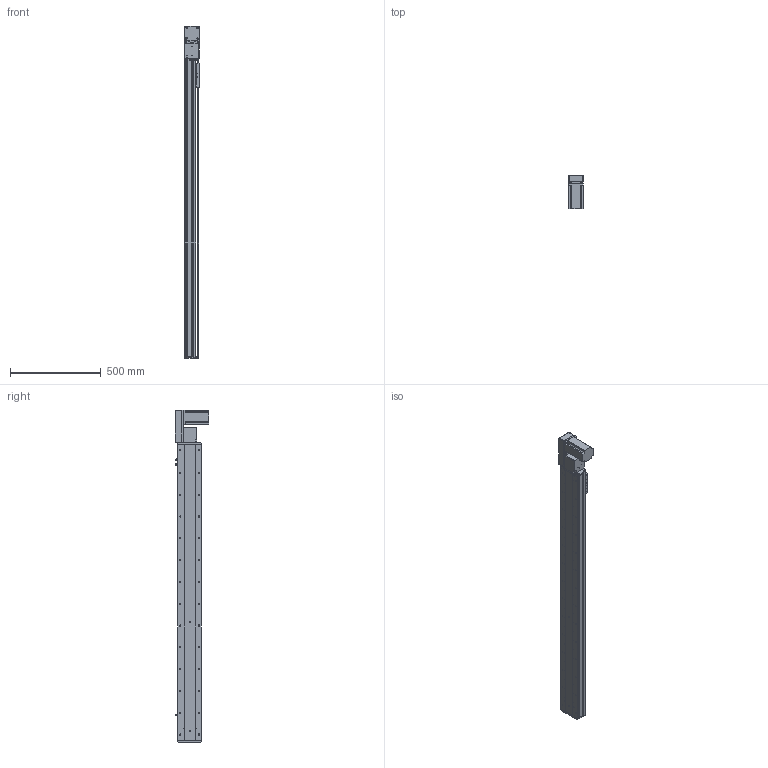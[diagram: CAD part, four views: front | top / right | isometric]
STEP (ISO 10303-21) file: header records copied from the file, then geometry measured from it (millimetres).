
FILE_DESCRIPTION (( 'STEP AP214' ), '1' );
FILE_NAME ('KSD130B-S1400-MRB-CM.STEP', '2019-09-21T07:09:02', ( '微软用户' ), ( '微软中国' ), 'SwSTEP 2.0', 'SolidWorks 2014', '' );
FILE_SCHEMA (( 'AUTOMOTIVE_DESIGN' ));
Length unit declared in the file: millimetre
Products named in the file (12): 130宽底板半封闭同步带-1400行程; KSD130B-S1400-MRB-CM; 台达ECMA－C20807AS伺服电机; 130宽模组保护罩上下左右折-同步带; 130宽模组马达安装板连板左右折同步带; 覜茼え100遵圉猾敕; U倰嫖萇EEㄜSX672; 130宽盖板半封闭同步带-1400行程; 130宽马达安装板同步带右-改镜向_默认<按加工>; 130宽马达安装板同步带半封闭; 130宽同步带安装座半封闭; 130宽端盖同步带半封闭
Assembly tree (13 placements, depth 2):
  KSD130B-S1400-MRB-CM
    130宽底板半封闭同步带-1400行程
    130宽端盖同步带半封闭
    130宽同步带安装座半封闭
    130宽马达安装板同步带半封闭
    130宽马达安装板同步带右-改镜向_默认<按加工>
    130宽盖板半封闭同步带-1400行程
    U倰嫖萇EEㄜSX672  x3
    覜茼え100遵圉猾敕
    130宽模组马达安装板连板左右折同步带
    130宽模组保护罩上下左右折-同步带
    台达ECMA－C20807AS伺服电机
Bounding box: 81 x 184.8 x 1827 mm (x, y, z)
Volume: 6067449.7 mm3; surface area: 1692980.3 mm2
Topology: 14 solids, 14 shells, 1637 faces, 4721 edges, 3001 vertices
Faces by surface type: cylinder 796, plane 638, cone 203
Entity records: 54899 total; most frequent: CARTESIAN_POINT 10422, DIRECTION 8307, ORIENTED_EDGE 8022, EDGE_CURVE 4011, AXIS2_PLACEMENT_3D 3046, VERTEX_POINT 2625, VECTOR 2215, LINE 2215
